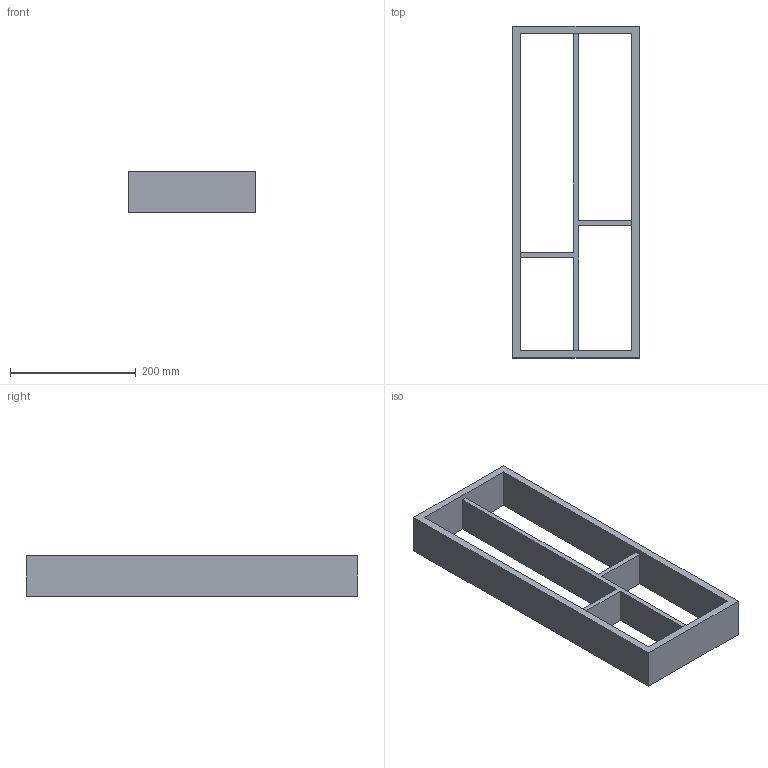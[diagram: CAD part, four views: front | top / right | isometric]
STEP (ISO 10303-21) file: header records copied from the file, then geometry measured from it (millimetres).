
FILE_DESCRIPTION (( 'STEP AP214' ), '1' );
FILE_NAME ('Vario Multi NL550_B300_19 mm_Buche.step', '2010-10-07T06:24:12', ( 'grass' ), ( '' ), 'SwSTEP 2.0', 'SolidWorks 2010', '' );
FILE_SCHEMA (( 'AUTOMOTIVE_DESIGN' ));
Length unit declared in the file: millimetre
Products named in the file (1): Vario Multi NL550_B300_19 mm_Buche
Bounding box: 202 x 529 x 65 mm (x, y, z)
Volume: 1410720 mm3; surface area: 302770 mm2
Topology: 1 solids, 1 shells, 19 faces, 60 edges, 40 vertices
Faces by surface type: plane 19
Entity records: 704 total; most frequent: ORIENTED_EDGE 120, CARTESIAN_POINT 120, DIRECTION 100, EDGE_CURVE 60, VECTOR 60, LINE 60, VERTEX_POINT 40, EDGE_LOOP 24
